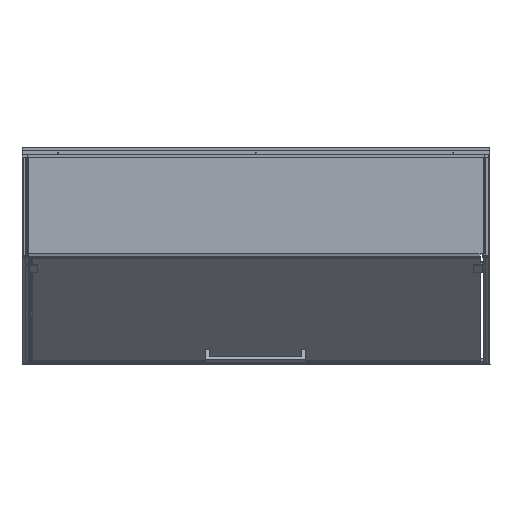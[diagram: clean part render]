
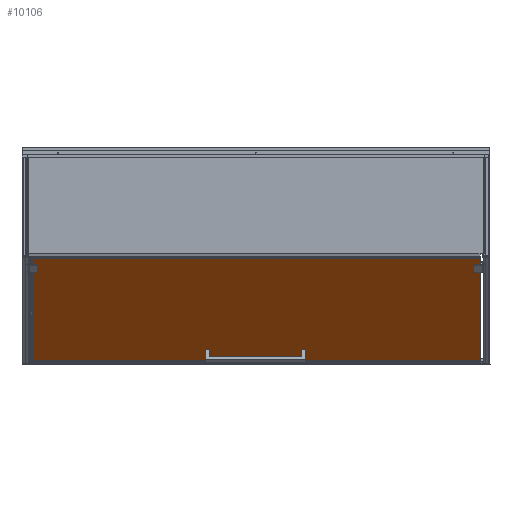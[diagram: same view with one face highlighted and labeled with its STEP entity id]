
A CAD part, front view. The second image highlights one B-rep face of the part: STEP entity #10106.
In plain terms, the highlighted planar face has unit normal (0, -0.707, -0.707) as drawn and (0, 1, 0) by its records, which use the part's own axes.
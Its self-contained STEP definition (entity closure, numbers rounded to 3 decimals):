
#9751=DIRECTION('',(0.,0.,1.));
#9752=VECTOR('',#9751,1876.);
#9753=CARTESIAN_POINT('',(-306.,8.,-938.));
#9754=LINE('',#9753,#9752);
#9759=DIRECTION('',(-1.,0.,0.));
#9760=VECTOR('',#9759,612.);
#9761=CARTESIAN_POINT('',(306.,8.,-938.));
#9762=LINE('',#9761,#9760);
#9767=DIRECTION('',(0.,0.,-1.));
#9768=VECTOR('',#9767,1876.);
#9769=CARTESIAN_POINT('',(306.,8.,938.));
#9770=LINE('',#9769,#9768);
#9775=DIRECTION('',(1.,0.,0.));
#9776=VECTOR('',#9775,612.);
#9777=CARTESIAN_POINT('',(-306.,8.,938.));
#9778=LINE('',#9777,#9776);
#9779=CARTESIAN_POINT('',(-259.,8.,-921.));
#9780=DIRECTION('',(0.,1.,0.));
#9781=DIRECTION('',(1.,0.,0.));
#9782=AXIS2_PLACEMENT_3D('',#9779,#9780,#9781);
#9784=CARTESIAN_POINT('',(-259.,8.,-921.));
#9785=DIRECTION('',(0.,1.,0.));
#9786=DIRECTION('',(-1.,0.,0.));
#9787=AXIS2_PLACEMENT_3D('',#9784,#9785,#9786);
#9789=CARTESIAN_POINT('',(-233.,8.,-921.));
#9790=DIRECTION('',(0.,1.,0.));
#9791=DIRECTION('',(1.,0.,0.));
#9792=AXIS2_PLACEMENT_3D('',#9789,#9790,#9791);
#9794=CARTESIAN_POINT('',(-233.,8.,-921.));
#9795=DIRECTION('',(0.,1.,0.));
#9796=DIRECTION('',(-1.,0.,0.));
#9797=AXIS2_PLACEMENT_3D('',#9794,#9795,#9796);
#9799=CARTESIAN_POINT('',(-259.,8.,921.));
#9800=DIRECTION('',(0.,1.,0.));
#9801=DIRECTION('',(-1.,0.,0.));
#9802=AXIS2_PLACEMENT_3D('',#9799,#9800,#9801);
#9804=CARTESIAN_POINT('',(-259.,8.,921.));
#9805=DIRECTION('',(0.,1.,0.));
#9806=DIRECTION('',(1.,0.,0.));
#9807=AXIS2_PLACEMENT_3D('',#9804,#9805,#9806);
#9809=CARTESIAN_POINT('',(-233.,8.,921.));
#9810=DIRECTION('',(0.,1.,0.));
#9811=DIRECTION('',(-1.,0.,0.));
#9812=AXIS2_PLACEMENT_3D('',#9809,#9810,#9811);
#9814=CARTESIAN_POINT('',(-233.,8.,921.));
#9815=DIRECTION('',(0.,1.,0.));
#9816=DIRECTION('',(1.,0.,0.));
#9817=AXIS2_PLACEMENT_3D('',#9814,#9815,#9816);
#9819=CARTESIAN_POINT('',(246.,8.,-200.5));
#9820=DIRECTION('',(0.,1.,0.));
#9821=DIRECTION('',(1.,0.,0.));
#9822=AXIS2_PLACEMENT_3D('',#9819,#9820,#9821);
#9824=CARTESIAN_POINT('',(246.,8.,-200.5));
#9825=DIRECTION('',(0.,1.,0.));
#9826=DIRECTION('',(-1.,0.,0.));
#9827=AXIS2_PLACEMENT_3D('',#9824,#9825,#9826);
#9829=CARTESIAN_POINT('',(246.,8.,200.5));
#9830=DIRECTION('',(0.,1.,0.));
#9831=DIRECTION('',(1.,0.,0.));
#9832=AXIS2_PLACEMENT_3D('',#9829,#9830,#9831);
#9834=CARTESIAN_POINT('',(246.,8.,200.5));
#9835=DIRECTION('',(0.,1.,0.));
#9836=DIRECTION('',(-1.,0.,0.));
#9837=AXIS2_PLACEMENT_3D('',#9834,#9835,#9836);
#9919=CARTESIAN_POINT('',(-306.,8.,-938.));
#9920=VERTEX_POINT('',#9919);
#9921=CARTESIAN_POINT('',(-306.,8.,938.));
#9922=VERTEX_POINT('',#9921);
#9923=CARTESIAN_POINT('',(306.,8.,-938.));
#9924=VERTEX_POINT('',#9923);
#9925=CARTESIAN_POINT('',(306.,8.,938.));
#9926=VERTEX_POINT('',#9925);
#9927=CARTESIAN_POINT('',(-253.,8.,-921.));
#9928=CARTESIAN_POINT('',(-265.,8.,-921.));
#9929=VERTEX_POINT('',#9927);
#9930=VERTEX_POINT('',#9928);
#9931=CARTESIAN_POINT('',(-227.,8.,-921.));
#9932=CARTESIAN_POINT('',(-239.,8.,-921.));
#9933=VERTEX_POINT('',#9931);
#9934=VERTEX_POINT('',#9932);
#9935=CARTESIAN_POINT('',(-265.,8.,921.));
#9936=CARTESIAN_POINT('',(-253.,8.,921.));
#9937=VERTEX_POINT('',#9935);
#9938=VERTEX_POINT('',#9936);
#9939=CARTESIAN_POINT('',(-239.,8.,921.));
#9940=CARTESIAN_POINT('',(-227.,8.,921.));
#9941=VERTEX_POINT('',#9939);
#9942=VERTEX_POINT('',#9940);
#9943=CARTESIAN_POINT('',(251.,8.,-200.5));
#9944=CARTESIAN_POINT('',(241.,8.,-200.5));
#9945=VERTEX_POINT('',#9943);
#9946=VERTEX_POINT('',#9944);
#9947=CARTESIAN_POINT('',(251.,8.,200.5));
#9948=CARTESIAN_POINT('',(241.,8.,200.5));
#9949=VERTEX_POINT('',#9947);
#9950=VERTEX_POINT('',#9948);
#10059=CARTESIAN_POINT('',(0.,8.,0.));
#10060=DIRECTION('',(0.,1.,0.));
#10061=DIRECTION('',(1.,0.,0.));
#10062=AXIS2_PLACEMENT_3D('',#10059,#10060,#10061);
#10063=PLANE('',#10062);
#10064=ORIENTED_EDGE('',*,*,#10011,.F.);
#10065=ORIENTED_EDGE('',*,*,#10026,.F.);
#10066=ORIENTED_EDGE('',*,*,#10040,.F.);
#10067=ORIENTED_EDGE('',*,*,#10053,.F.);
#10068=EDGE_LOOP('',(#10064,#10065,#10066,#10067));
#10069=FACE_OUTER_BOUND('',#10068,.F.);
#10071=ORIENTED_EDGE('',*,*,#10070,.T.);
#10073=ORIENTED_EDGE('',*,*,#10072,.T.);
#10074=EDGE_LOOP('',(#10071,#10073));
#10075=FACE_BOUND('',#10074,.F.);
#10077=ORIENTED_EDGE('',*,*,#10076,.T.);
#10079=ORIENTED_EDGE('',*,*,#10078,.T.);
#10080=EDGE_LOOP('',(#10077,#10079));
#10081=FACE_BOUND('',#10080,.F.);
#10083=ORIENTED_EDGE('',*,*,#10082,.T.);
#10085=ORIENTED_EDGE('',*,*,#10084,.T.);
#10086=EDGE_LOOP('',(#10083,#10085));
#10087=FACE_BOUND('',#10086,.F.);
#10089=ORIENTED_EDGE('',*,*,#10088,.T.);
#10091=ORIENTED_EDGE('',*,*,#10090,.T.);
#10092=EDGE_LOOP('',(#10089,#10091));
#10093=FACE_BOUND('',#10092,.F.);
#10095=ORIENTED_EDGE('',*,*,#10094,.T.);
#10097=ORIENTED_EDGE('',*,*,#10096,.T.);
#10098=EDGE_LOOP('',(#10095,#10097));
#10099=FACE_BOUND('',#10098,.F.);
#10101=ORIENTED_EDGE('',*,*,#10100,.T.);
#10103=ORIENTED_EDGE('',*,*,#10102,.T.);
#10104=EDGE_LOOP('',(#10101,#10103));
#10105=FACE_BOUND('',#10104,.F.);
#10106=ADVANCED_FACE('',(#10069,#10075,#10081,#10087,#10093,#10099,#10105),
#10063,.T.);
#9783=CIRCLE('',#9782,6.);
#9788=CIRCLE('',#9787,6.);
#9793=CIRCLE('',#9792,6.);
#9798=CIRCLE('',#9797,6.);
#9803=CIRCLE('',#9802,6.);
#9808=CIRCLE('',#9807,6.);
#9813=CIRCLE('',#9812,6.);
#9818=CIRCLE('',#9817,6.);
#9823=CIRCLE('',#9822,5.);
#9828=CIRCLE('',#9827,5.);
#9833=CIRCLE('',#9832,5.);
#9838=CIRCLE('',#9837,5.);
#10011=EDGE_CURVE('',#9920,#9922,#9754,.T.);
#10026=EDGE_CURVE('',#9924,#9920,#9762,.T.);
#10040=EDGE_CURVE('',#9926,#9924,#9770,.T.);
#10053=EDGE_CURVE('',#9922,#9926,#9778,.T.);
#10070=EDGE_CURVE('',#9929,#9930,#9783,.T.);
#10072=EDGE_CURVE('',#9930,#9929,#9788,.T.);
#10076=EDGE_CURVE('',#9933,#9934,#9793,.T.);
#10078=EDGE_CURVE('',#9934,#9933,#9798,.T.);
#10082=EDGE_CURVE('',#9937,#9938,#9803,.T.);
#10084=EDGE_CURVE('',#9938,#9937,#9808,.T.);
#10088=EDGE_CURVE('',#9941,#9942,#9813,.T.);
#10090=EDGE_CURVE('',#9942,#9941,#9818,.T.);
#10094=EDGE_CURVE('',#9945,#9946,#9823,.T.);
#10096=EDGE_CURVE('',#9946,#9945,#9828,.T.);
#10100=EDGE_CURVE('',#9949,#9950,#9833,.T.);
#10102=EDGE_CURVE('',#9950,#9949,#9838,.T.);
